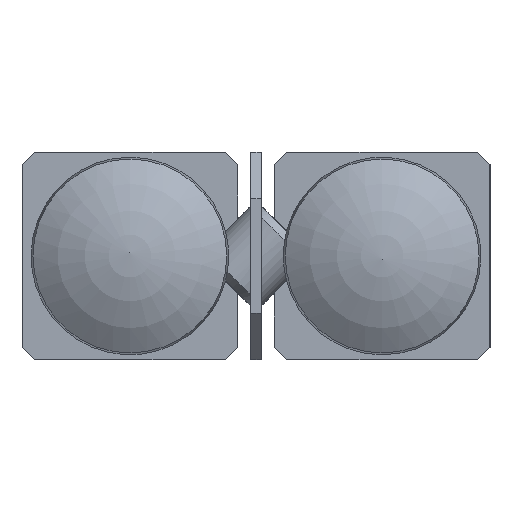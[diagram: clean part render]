
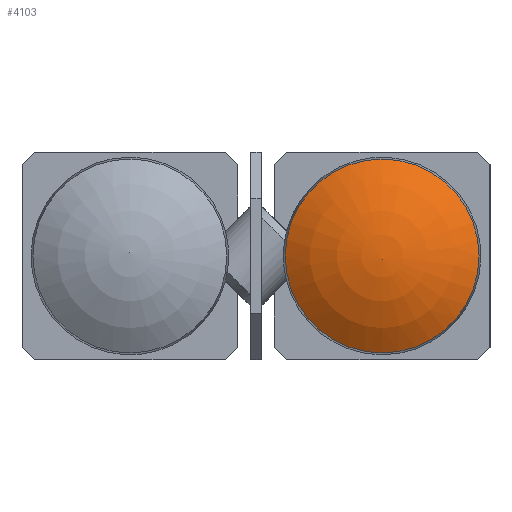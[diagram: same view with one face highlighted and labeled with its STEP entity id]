
A CAD part, left-side view. The second image highlights one B-rep face of the part: STEP entity #4103.
In plain terms, the highlighted toroidal (fillet/blend) face has major radius 0.059 mm and minor radius 6.5 mm.
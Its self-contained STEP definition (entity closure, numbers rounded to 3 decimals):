
#92=VERTEX_LOOP('',#1995);
#96=DEGENERATE_TOROIDAL_SURFACE('',#4410,0.059,6.5,
 .F.);
#205=CIRCLE('',#4409,3.728);
#420=ORIENTED_EDGE('',*,*,#1458,.F.);
#1458=EDGE_CURVE('',#1994,#1994,#205,.T.);
#1994=VERTEX_POINT('',#6129);
#1995=VERTEX_POINT('',#6131);
#3168=EDGE_LOOP('',(#420));
#3568=FACE_BOUND('',#92,.T.);
#3569=FACE_BOUND('',#3168,.T.);
#4103=ADVANCED_FACE('',(#3568,#3569),#96,.F.);
#4409=AXIS2_PLACEMENT_3D('',#6128,#4927,#4928);
#4410=AXIS2_PLACEMENT_3D('',#6130,#4929,#4930);
#4927=DIRECTION('',(1.,0.,0.));
#4928=DIRECTION('',(0.,0.,-1.));
#4929=DIRECTION('',(1.,0.,0.));
#4930=DIRECTION('',(0.,0.,-1.));
#6128=CARTESIAN_POINT('',(1.217,-4.85,0.));
#6129=CARTESIAN_POINT('',(1.217,-4.85,-3.728));
#6130=CARTESIAN_POINT('',(6.5,-4.85,0.));
#6131=CARTESIAN_POINT('',(0.,-4.85,0.));
